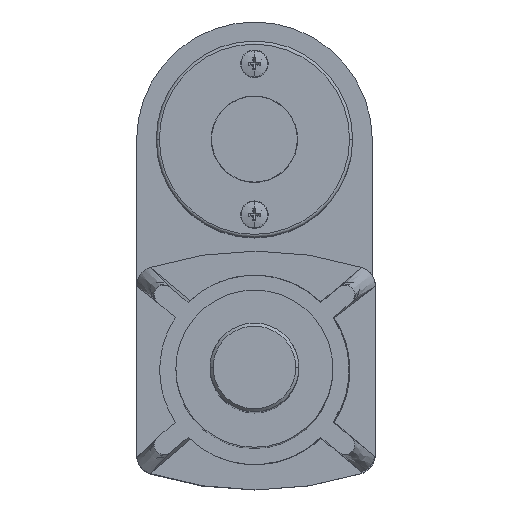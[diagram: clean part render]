
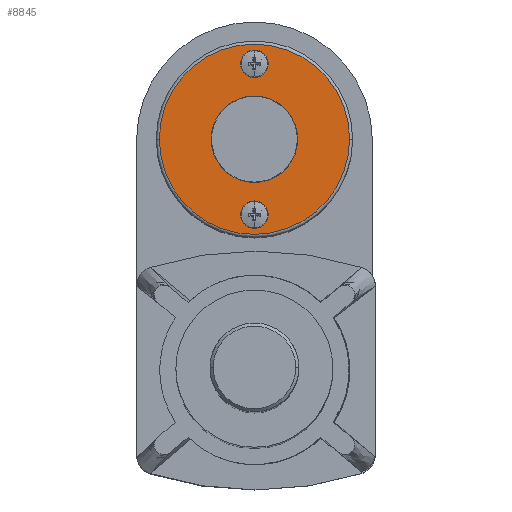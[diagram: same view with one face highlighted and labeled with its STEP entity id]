
A CAD part, top view. The second image highlights one B-rep face of the part: STEP entity #8845.
In plain terms, the highlighted planar face has unit normal (0, 0, 1).
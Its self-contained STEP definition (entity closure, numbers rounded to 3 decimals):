
#57 = EDGE_LOOP ( 'NONE', ( #4482, #8340 ) ) ;
#239 = DIRECTION ( 'NONE',  ( 0., 0., 1. ) ) ;
#452 = EDGE_LOOP ( 'NONE', ( #5027, #3666 ) ) ;
#652 = ORIENTED_EDGE ( 'NONE', *, *, #7526, .F. ) ;
#743 = DIRECTION ( 'NONE',  ( -1., 0., 0. ) ) ;
#824 = EDGE_LOOP ( 'NONE', ( #2066, #652 ) ) ;
#867 = DIRECTION ( 'NONE',  ( 0., 0., 1. ) ) ;
#881 = CARTESIAN_POINT ( 'NONE',  ( 38.608, -56.038, 406.098 ) ) ;
#953 = VERTEX_POINT ( 'NONE', #4741 ) ;
#1033 = AXIS2_PLACEMENT_3D ( 'NONE', #7683, #9344, #10131 ) ;
#1080 = CIRCLE ( 'NONE', #10151, 2.54 ) ;
#1586 = VERTEX_POINT ( 'NONE', #2615 ) ;
#1601 = FACE_OUTER_BOUND ( 'NONE', #57, .T. ) ;
#1700 = VERTEX_POINT ( 'NONE', #4519 ) ;
#1715 = DIRECTION ( 'NONE',  ( -1., 0., 0. ) ) ;
#1866 = CARTESIAN_POINT ( 'NONE',  ( 38.608, -31.638, 406.098 ) ) ;
#1879 = DIRECTION ( 'NONE',  ( -1., 0., 0. ) ) ;
#1891 = DIRECTION ( 'NONE',  ( -1., 0., 0. ) ) ;
#2066 = ORIENTED_EDGE ( 'NONE', *, *, #7506, .F. ) ;
#2520 = EDGE_CURVE ( 'NONE', #1700, #10181, #4767, .T. ) ;
#2615 = CARTESIAN_POINT ( 'NONE',  ( 41.148, -56.038, 406.098 ) ) ;
#2716 = CIRCLE ( 'NONE', #5941, 30.75 ) ;
#3067 = CARTESIAN_POINT ( 'NONE',  ( 69.358, -31.638, 406.098 ) ) ;
#3326 = CARTESIAN_POINT ( 'NONE',  ( 38.608, -7.238, 406.098 ) ) ;
#3407 = CARTESIAN_POINT ( 'NONE',  ( 41.148, -7.238, 406.098 ) ) ;
#3534 = DIRECTION ( 'NONE',  ( 0., 0., 1. ) ) ;
#3666 = ORIENTED_EDGE ( 'NONE', *, *, #6963, .F. ) ;
#3747 = FACE_BOUND ( 'NONE', #452, .T. ) ;
#4110 = DIRECTION ( 'NONE',  ( -1., 0., 0. ) ) ;
#4166 = EDGE_CURVE ( 'NONE', #10181, #1700, #2716, .T. ) ;
#4333 = DIRECTION ( 'NONE',  ( 0., 0., 1. ) ) ;
#4482 = ORIENTED_EDGE ( 'NONE', *, *, #2520, .T. ) ;
#4519 = CARTESIAN_POINT ( 'NONE',  ( 7.858, -31.638, 406.098 ) ) ;
#4647 = CIRCLE ( 'NONE', #10493, 2.54 ) ;
#4741 = CARTESIAN_POINT ( 'NONE',  ( 36.068, -7.238, 406.098 ) ) ;
#4767 = CIRCLE ( 'NONE', #5202, 30.75 ) ;
#4780 = CARTESIAN_POINT ( 'NONE',  ( 38.608, -56.038, 406.098 ) ) ;
#5027 = ORIENTED_EDGE ( 'NONE', *, *, #9046, .F. ) ;
#5153 = FACE_BOUND ( 'NONE', #824, .T. ) ;
#5202 = AXIS2_PLACEMENT_3D ( 'NONE', #5708, #867, #4110 ) ;
#5273 = CIRCLE ( 'NONE', #5987, 2.54 ) ;
#5586 = DIRECTION ( 'NONE',  ( 0., 0., 1. ) ) ;
#5708 = CARTESIAN_POINT ( 'NONE',  ( 38.608, -31.638, 406.098 ) ) ;
#5821 = VERTEX_POINT ( 'NONE', #3407 ) ;
#5941 = AXIS2_PLACEMENT_3D ( 'NONE', #1866, #4333, #1891 ) ;
#5987 = AXIS2_PLACEMENT_3D ( 'NONE', #4780, #5586, #743 ) ;
#6024 = PLANE ( 'NONE',  #1033 ) ;
#6963 = EDGE_CURVE ( 'NONE', #1586, #7183, #1080, .T. ) ;
#7183 = VERTEX_POINT ( 'NONE', #7760 ) ;
#7377 = CARTESIAN_POINT ( 'NONE',  ( 38.608, -7.238, 406.098 ) ) ;
#7506 = EDGE_CURVE ( 'NONE', #953, #5821, #10142, .T. ) ;
#7526 = EDGE_CURVE ( 'NONE', #5821, #953, #4647, .T. ) ;
#7683 = CARTESIAN_POINT ( 'NONE',  ( 38.608, -31.638, 406.098 ) ) ;
#7760 = CARTESIAN_POINT ( 'NONE',  ( 36.068, -56.038, 406.098 ) ) ;
#8340 = ORIENTED_EDGE ( 'NONE', *, *, #4166, .T. ) ;
#8845 = ADVANCED_FACE ( 'NONE', ( #3747, #5153, #1601 ), #6024, .T. ) ;
#8885 = AXIS2_PLACEMENT_3D ( 'NONE', #3326, #3534, #1879 ) ;
#9046 = EDGE_CURVE ( 'NONE', #7183, #1586, #5273, .T. ) ;
#9344 = DIRECTION ( 'NONE',  ( 0., 0., 1. ) ) ;
#9760 = DIRECTION ( 'NONE',  ( 0., 0., 1. ) ) ;
#9813 = DIRECTION ( 'NONE',  ( -1., 0., 0. ) ) ;
#10131 = DIRECTION ( 'NONE',  ( -1., 0., 0. ) ) ;
#10142 = CIRCLE ( 'NONE', #8885, 2.54 ) ;
#10151 = AXIS2_PLACEMENT_3D ( 'NONE', #881, #9760, #1715 ) ;
#10181 = VERTEX_POINT ( 'NONE', #3067 ) ;
#10493 = AXIS2_PLACEMENT_3D ( 'NONE', #7377, #239, #9813 ) ;
